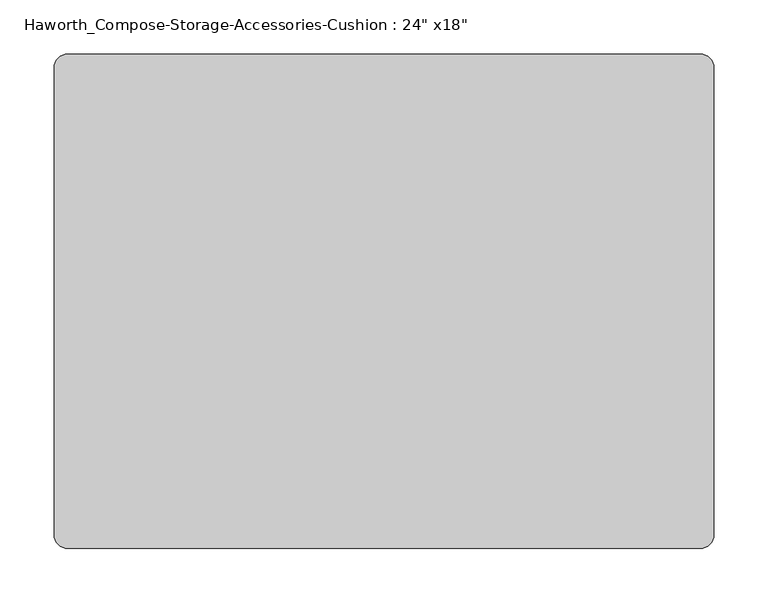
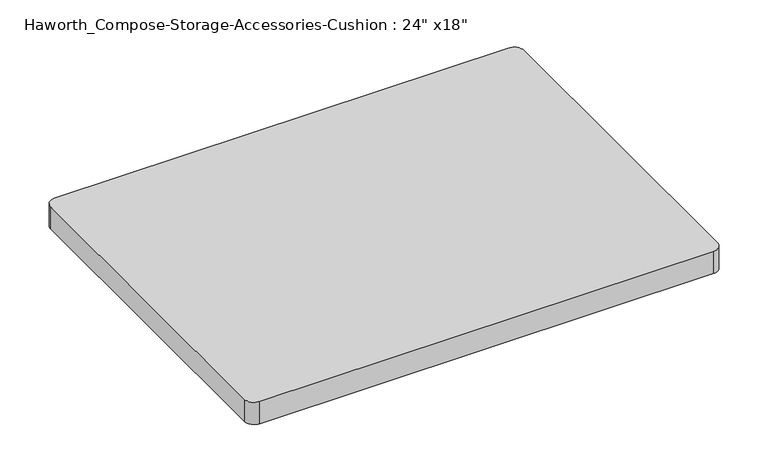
"""IFC4 building model written with IfcOpenShell, lengths in millimetres: furniture geometry."""

from ifc_helpers import new_model, si_unit, point, frame, frame_2d, origin, place, context, project, spatial, polyline, circle_curve, trimmed, segment, composite_curve, outline, extrude, source, transform, mapped, element, save


def furniture_d20c8d1a(model_context):
    return source(origin(), model_context, "Body", "SweptSolid", [
        extrude(outline(composite_curve([segment(trimmed(circle_curve(frame_2d((292.1, 215.9)), 12.7), [point((292.1, 228.6))], [point((304.8, 215.9))], False, "CARTESIAN"), True, "CONTINUOUS"), segment(polyline([(304.8, 215.9), (304.8, -215.9)]), True, "CONTINUOUS"), segment(trimmed(circle_curve(frame_2d((292.1, -215.9)), 12.7), [point((304.8, -215.9))], [point((292.1, -228.6))], False, "CARTESIAN"), True, "CONTINUOUS"), segment(polyline([(292.1, -228.6), (-292.1, -228.6)]), True, "CONTINUOUS"), segment(trimmed(circle_curve(frame_2d((-292.1, -215.9)), 12.7), [point((-292.1, -228.6))], [point((-304.8, -215.9))], False, "CARTESIAN"), True, "CONTINUOUS"), segment(polyline([(-304.8, -215.9), (-304.8, 215.9)]), True, "CONTINUOUS"), segment(trimmed(circle_curve(frame_2d((-292.1, 215.9)), 12.7), [point((-304.8, 215.9))], [point((-292.1, 228.6))], False, "CARTESIAN"), True, "CONTINUOUS"), segment(polyline([(-292.1, 228.6), (292.1, 228.6)]), True, "CONTINUOUS")], self_intersect=False)), frame((0.0, 0.0, 584.2), z_axis=(0.0, 0.0, 1.0), x_axis=(1.0, 0.0, 0.0)), (0.0, 0.0, 1.0), 30.1625),
    ])


if __name__ == "__main__":
    model = new_model("IFC4")
    model_context = context("Model", 3, world=origin())
    ifc_project = project(units=[si_unit("LENGTHUNIT", "METRE", prefix="MILLI")], contexts=[model_context])
    site = spatial("IfcSite", under=ifc_project)
    building = spatial("IfcBuilding", under=site)
    placement = place(None, origin())
    furniture_shape = furniture_d20c8d1a(model_context)
    element("IfcFurniture", 1, ObjectType="Haworth_Compose-Storage-Accessories-Cushion : 24\" x18\"", at=placement, inside=building, context=model_context, shape_type="MappedRepresentation", body=[
        mapped(furniture_shape, transform((0.0, 0.0, 0.0), x_axis=(1.0, 0.0, 0.0), y_axis=(0.0, 1.0, 0.0), z_axis=(0.0, 0.0, 1.0))),
    ])
    save(model, "model.ifc")
